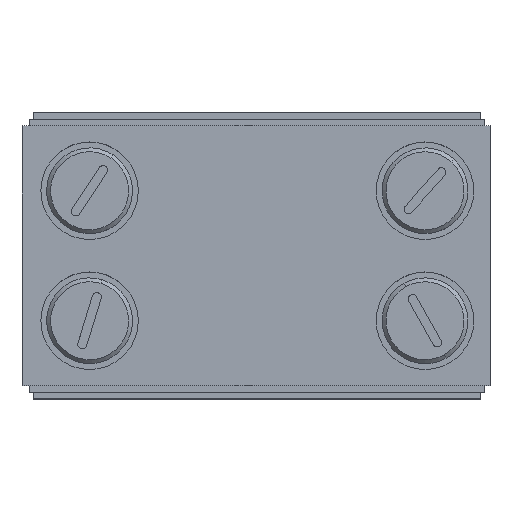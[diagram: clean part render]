
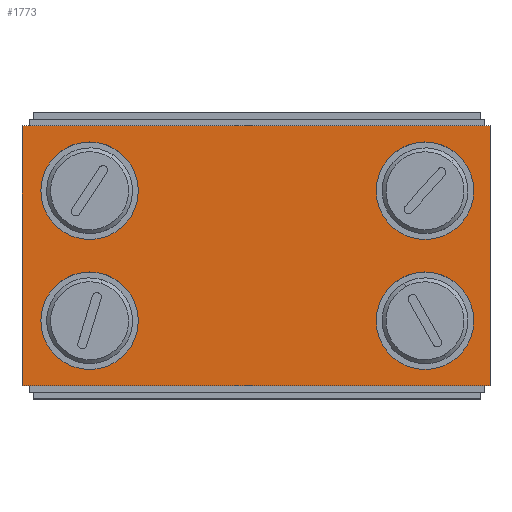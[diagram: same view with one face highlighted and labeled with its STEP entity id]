
A CAD part, top view. The second image highlights one B-rep face of the part: STEP entity #1773.
In plain terms, the highlighted planar face has unit normal (0, 0, 1).
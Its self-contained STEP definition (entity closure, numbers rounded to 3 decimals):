
#147 = CARTESIAN_POINT ( 'NONE',  ( 0., 0., 9.63 ) ) ;
#268 = VERTEX_POINT ( 'NONE', #24062 ) ;
#748 = EDGE_CURVE ( 'NONE', #33605, #2954, #3306, .T. ) ;
#1025 = CARTESIAN_POINT ( 'NONE',  ( -18.47, -10., 9.63 ) ) ;
#1204 = CARTESIAN_POINT ( 'NONE',  ( -18.47, 10., 9.63 ) ) ;
#1290 = ORIENTED_EDGE ( 'NONE', *, *, #28837, .F. ) ;
#1369 = VERTEX_POINT ( 'NONE', #41134 ) ;
#1500 = DIRECTION ( 'NONE',  ( 1., 0., 0. ) ) ;
#1508 = CARTESIAN_POINT ( 'NONE',  ( -18.47, -10., 9.63 ) ) ;
#1661 = DIRECTION ( 'NONE',  ( 0., 0., 1. ) ) ;
#1773 = ADVANCED_FACE ( 'NONE', ( #37050, #20142, #33717, #3255, #23712 ), #20794, .F. ) ;
#2399 = CARTESIAN_POINT ( 'NONE',  ( 12.53, -5., 9.63 ) ) ;
#2541 = DIRECTION ( 'NONE',  ( 1., 0., 0. ) ) ;
#2626 = CARTESIAN_POINT ( 'NONE',  ( -13.27, 5., 9.63 ) ) ;
#2954 = VERTEX_POINT ( 'NONE', #34833 ) ;
#2994 = CARTESIAN_POINT ( 'NONE',  ( 17.53, -10., 9.63 ) ) ;
#3061 = AXIS2_PLACEMENT_3D ( 'NONE', #8326, #1661, #15207 ) ;
#3084 = CARTESIAN_POINT ( 'NONE',  ( -17.02, -5., 9.63 ) ) ;
#3151 = DIRECTION ( 'NONE',  ( 0., 0., 1. ) ) ;
#3255 = FACE_BOUND ( 'NONE', #42822, .T. ) ;
#3306 = CIRCLE ( 'NONE', #33840, 3.75 ) ;
#3949 = CARTESIAN_POINT ( 'NONE',  ( 12.53, 5., 9.63 ) ) ;
#4152 = VERTEX_POINT ( 'NONE', #2994 ) ;
#4371 = AXIS2_PLACEMENT_3D ( 'NONE', #33165, #23821, #29620 ) ;
#5215 = DIRECTION ( 'NONE',  ( 0., 0., 1. ) ) ;
#5522 = VERTEX_POINT ( 'NONE', #32847 ) ;
#5729 = EDGE_CURVE ( 'NONE', #15710, #13654, #15807, .T. ) ;
#5751 = ORIENTED_EDGE ( 'NONE', *, *, #5729, .T. ) ;
#5886 = EDGE_CURVE ( 'NONE', #5522, #34573, #30015, .T. ) ;
#6413 = CARTESIAN_POINT ( 'NONE',  ( 17.53, -10., 9.63 ) ) ;
#6708 = EDGE_CURVE ( 'NONE', #34573, #5522, #8060, .T. ) ;
#6966 = EDGE_CURVE ( 'NONE', #26917, #14993, #31863, .T. ) ;
#7012 = EDGE_CURVE ( 'NONE', #13654, #1369, #37729, .T. ) ;
#7902 = CIRCLE ( 'NONE', #4371, 3.75 ) ;
#8060 = CIRCLE ( 'NONE', #13732, 3.75 ) ;
#8326 = CARTESIAN_POINT ( 'NONE',  ( -13.27, -5., 9.63 ) ) ;
#11537 = CIRCLE ( 'NONE', #40010, 3.75 ) ;
#13377 = CARTESIAN_POINT ( 'NONE',  ( 12.53, -5., 9.63 ) ) ;
#13654 = VERTEX_POINT ( 'NONE', #1204 ) ;
#13732 = AXIS2_PLACEMENT_3D ( 'NONE', #2399, #42914, #1500 ) ;
#14324 = ORIENTED_EDGE ( 'NONE', *, *, #20490, .F. ) ;
#14764 = CIRCLE ( 'NONE', #39678, 3.75 ) ;
#14993 = VERTEX_POINT ( 'NONE', #32345 ) ;
#15207 = DIRECTION ( 'NONE',  ( 1., 0., 0. ) ) ;
#15478 = AXIS2_PLACEMENT_3D ( 'NONE', #147, #34384, #17458 ) ;
#15710 = VERTEX_POINT ( 'NONE', #34724 ) ;
#15807 = LINE ( 'NONE', #29634, #17920 ) ;
#17458 = DIRECTION ( 'NONE',  ( -1., 0., 0. ) ) ;
#17482 = DIRECTION ( 'NONE',  ( 1., 0., 0. ) ) ;
#17738 = EDGE_LOOP ( 'NONE', ( #21581, #38888 ) ) ;
#17920 = VECTOR ( 'NONE', #28983, 1000. ) ;
#19082 = DIRECTION ( 'NONE',  ( 0., 1., 0. ) ) ;
#19341 = EDGE_CURVE ( 'NONE', #4152, #15710, #25778, .T. ) ;
#19783 = CARTESIAN_POINT ( 'NONE',  ( 8.78, -5., 9.63 ) ) ;
#20142 = FACE_BOUND ( 'NONE', #36287, .T. ) ;
#20490 = EDGE_CURVE ( 'NONE', #2954, #33605, #14764, .T. ) ;
#20794 = PLANE ( 'NONE',  #15478 ) ;
#21581 = ORIENTED_EDGE ( 'NONE', *, *, #5886, .F. ) ;
#22555 = ORIENTED_EDGE ( 'NONE', *, *, #6966, .F. ) ;
#22934 = CIRCLE ( 'NONE', #3061, 3.75 ) ;
#23295 = ORIENTED_EDGE ( 'NONE', *, *, #29889, .F. ) ;
#23298 = CARTESIAN_POINT ( 'NONE',  ( 16.28, 5., 9.63 ) ) ;
#23712 = FACE_OUTER_BOUND ( 'NONE', #43709, .T. ) ;
#23821 = DIRECTION ( 'NONE',  ( 0., 0., 1. ) ) ;
#24062 = CARTESIAN_POINT ( 'NONE',  ( -9.52, -5., 9.63 ) ) ;
#24485 = VECTOR ( 'NONE', #37791, 1000. ) ;
#24613 = DIRECTION ( 'NONE',  ( 0., -1., 0. ) ) ;
#24778 = AXIS2_PLACEMENT_3D ( 'NONE', #2626, #33957, #29751 ) ;
#24909 = EDGE_CURVE ( 'NONE', #1369, #4152, #31984, .T. ) ;
#25052 = CARTESIAN_POINT ( 'NONE',  ( -9.52, 5., 9.63 ) ) ;
#25778 = LINE ( 'NONE', #6413, #36821 ) ;
#26917 = VERTEX_POINT ( 'NONE', #25052 ) ;
#27636 = VECTOR ( 'NONE', #24613, 1000. ) ;
#27714 = EDGE_LOOP ( 'NONE', ( #1290, #43680 ) ) ;
#28837 = EDGE_CURVE ( 'NONE', #268, #29299, #7902, .T. ) ;
#28983 = DIRECTION ( 'NONE',  ( -1., 0., 0. ) ) ;
#29299 = VERTEX_POINT ( 'NONE', #3084 ) ;
#29319 = AXIS2_PLACEMENT_3D ( 'NONE', #13377, #3151, #37166 ) ;
#29620 = DIRECTION ( 'NONE',  ( 1., 0., 0. ) ) ;
#29634 = CARTESIAN_POINT ( 'NONE',  ( -18.47, 10., 9.63 ) ) ;
#29751 = DIRECTION ( 'NONE',  ( 1., 0., 0. ) ) ;
#29889 = EDGE_CURVE ( 'NONE', #14993, #26917, #11537, .T. ) ;
#30015 = CIRCLE ( 'NONE', #29319, 3.75 ) ;
#30055 = EDGE_CURVE ( 'NONE', #29299, #268, #22934, .T. ) ;
#31042 = DIRECTION ( 'NONE',  ( 1., 0., 0. ) ) ;
#31863 = CIRCLE ( 'NONE', #24778, 3.75 ) ;
#31984 = LINE ( 'NONE', #1508, #24485 ) ;
#32127 = ORIENTED_EDGE ( 'NONE', *, *, #19341, .T. ) ;
#32345 = CARTESIAN_POINT ( 'NONE',  ( -17.02, 5., 9.63 ) ) ;
#32847 = CARTESIAN_POINT ( 'NONE',  ( 16.28, -5., 9.63 ) ) ;
#33165 = CARTESIAN_POINT ( 'NONE',  ( -13.27, -5., 9.63 ) ) ;
#33605 = VERTEX_POINT ( 'NONE', #23298 ) ;
#33717 = FACE_BOUND ( 'NONE', #17738, .T. ) ;
#33840 = AXIS2_PLACEMENT_3D ( 'NONE', #39472, #5215, #2541 ) ;
#33957 = DIRECTION ( 'NONE',  ( 0., 0., 1. ) ) ;
#34384 = DIRECTION ( 'NONE',  ( 0., 0., -1. ) ) ;
#34573 = VERTEX_POINT ( 'NONE', #19783 ) ;
#34724 = CARTESIAN_POINT ( 'NONE',  ( 17.53, 10., 9.63 ) ) ;
#34833 = CARTESIAN_POINT ( 'NONE',  ( 8.78, 5., 9.63 ) ) ;
#36287 = EDGE_LOOP ( 'NONE', ( #37289, #14324 ) ) ;
#36821 = VECTOR ( 'NONE', #19082, 1000. ) ;
#37050 = FACE_BOUND ( 'NONE', #27714, .T. ) ;
#37166 = DIRECTION ( 'NONE',  ( 1., 0., 0. ) ) ;
#37289 = ORIENTED_EDGE ( 'NONE', *, *, #748, .F. ) ;
#37496 = CARTESIAN_POINT ( 'NONE',  ( -13.27, 5., 9.63 ) ) ;
#37729 = LINE ( 'NONE', #1025, #27636 ) ;
#37791 = DIRECTION ( 'NONE',  ( 1., 0., 0. ) ) ;
#37965 = DIRECTION ( 'NONE',  ( 0., 0., 1. ) ) ;
#38888 = ORIENTED_EDGE ( 'NONE', *, *, #6708, .F. ) ;
#39388 = ORIENTED_EDGE ( 'NONE', *, *, #7012, .T. ) ;
#39472 = CARTESIAN_POINT ( 'NONE',  ( 12.53, 5., 9.63 ) ) ;
#39678 = AXIS2_PLACEMENT_3D ( 'NONE', #3949, #37965, #17482 ) ;
#40010 = AXIS2_PLACEMENT_3D ( 'NONE', #37496, #41084, #31042 ) ;
#40495 = ORIENTED_EDGE ( 'NONE', *, *, #24909, .T. ) ;
#41084 = DIRECTION ( 'NONE',  ( 0., 0., 1. ) ) ;
#41134 = CARTESIAN_POINT ( 'NONE',  ( -18.47, -10., 9.63 ) ) ;
#42822 = EDGE_LOOP ( 'NONE', ( #22555, #23295 ) ) ;
#42914 = DIRECTION ( 'NONE',  ( 0., 0., 1. ) ) ;
#43680 = ORIENTED_EDGE ( 'NONE', *, *, #30055, .F. ) ;
#43709 = EDGE_LOOP ( 'NONE', ( #39388, #40495, #32127, #5751 ) ) ;
